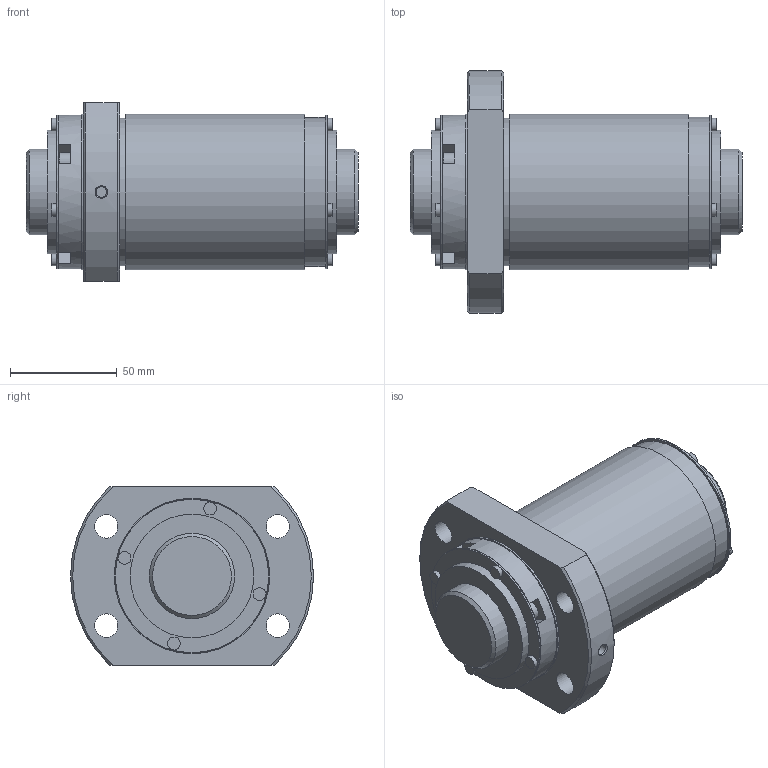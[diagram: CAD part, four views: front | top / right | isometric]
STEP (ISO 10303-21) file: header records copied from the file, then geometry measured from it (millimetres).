
FILE_DESCRIPTION(/* description */ ('STEP AP203'),/* implementation_level */ '2;1');
FILE_NAME(/* name */ 'BLK4040-2.8ZZG1+155.8LC3_0_1300',/* time_stamp */ '2025-01-16T07:05:10+01:00',/* author */ ('License CC BY-ND 4.0'),/* organization */ ('CADENAS'),/* preprocessor_version */ 'ST-DEVELOPER v19.3',/* originating_system */ 'PARTsolutions',/* authorisation */ ' ');
FILE_SCHEMA (('CONFIG_CONTROL_DESIGN'));
Length unit declared in the file: millimetre
Products named in the file (3): BLK4040-2.8ZZG1+155.8LC3_0_1300; ZZ0130BLK4040-2.80Shaft; RR0130BLK4040-2.8Nut
Assembly tree (2 placements, depth 2):
  BLK4040-2.8ZZG1+155.8LC3_0_1300
    ZZ0130BLK4040-2.80Shaft
    RR0130BLK4040-2.8Nut
Bounding box: 155.8 x 114 x 84 mm (x, y, z)
Volume: 640549 mm3; surface area: 92118.5 mm2
Topology: 2 solids, 2 shells, 154 faces, 343 edges, 214 vertices
Faces by surface type: plane 95, cylinder 38, cone 17, torus 4
Full cylindrical faces by diameter (mm): 4.5 x4, 4.917 x1, 6 x8, 9.45 x4, 11 x4, 40 x2, 58 x2, 69.35 x1, 70 x1, 72 x3, 73 x2
Entity records: 4036 total; most frequent: CARTESIAN_POINT 769, DIRECTION 686, ORIENTED_EDGE 558, AXIS2_PLACEMENT_3D 283, EDGE_CURVE 279, FACE_BOUND 238, EDGE_LOOP 234, VERTEX_POINT 203
